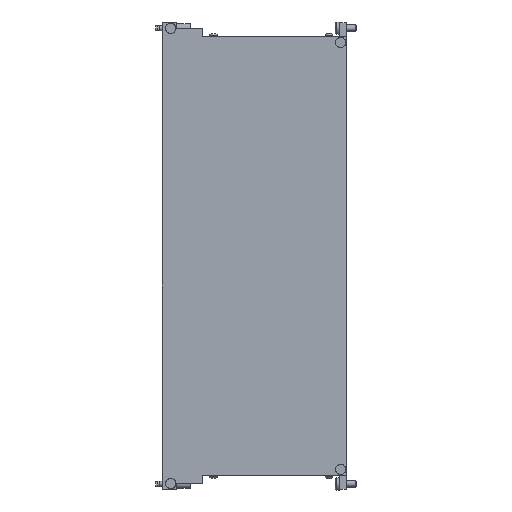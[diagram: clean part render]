
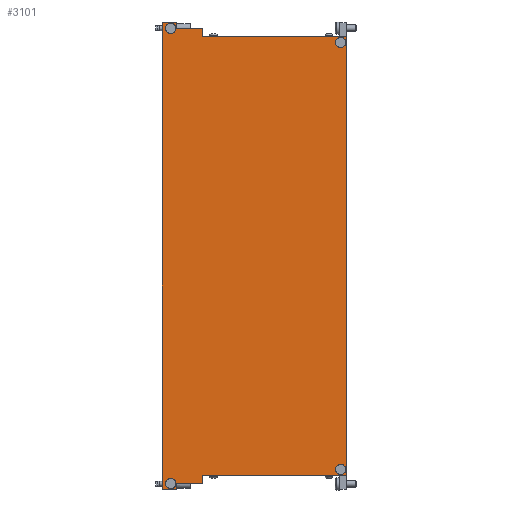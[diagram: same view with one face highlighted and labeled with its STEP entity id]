
A CAD part, top view. The second image highlights one B-rep face of the part: STEP entity #3101.
In plain terms, the highlighted planar face has unit normal (0, 0, 1).
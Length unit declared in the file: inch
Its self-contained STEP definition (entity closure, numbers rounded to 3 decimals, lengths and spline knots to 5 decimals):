
#2954=CARTESIAN_POINT('',(-2.10901,-4.59475,0.05));
#2955=DIRECTION('',(0.0,0.0,1.0));
#2956=DIRECTION('',(0.0,-1.0,0.0));
#2957=AXIS2_PLACEMENT_3D('',#2954,#2955,#2956);
#2958=PLANE('',#2957);
#2959=CARTESIAN_POINT('',(-4.0685,0.56375,0.05));
#2960=VERTEX_POINT('',#2959);
#2961=CARTESIAN_POINT('',(-3.756,0.56375,0.05));
#2962=VERTEX_POINT('',#2961);
#2963=CARTESIAN_POINT('',(-4.0685,0.56375,0.05));
#2964=DIRECTION('',(1.0,0.0,0.0));
#2965=VECTOR('',#2964,0.3125);
#2966=LINE('',#2963,#2965);
#2967=EDGE_CURVE('',#2960,#2962,#2966,.T.);
#2968=ORIENTED_EDGE('',*,*,#2967,.F.);
#2969=CARTESIAN_POINT('',(-4.0685,-9.75325,0.05));
#2970=VERTEX_POINT('',#2969);
#2971=CARTESIAN_POINT('',(-4.0685,-9.75325,0.05));
#2972=DIRECTION('',(0.0,1.0,0.0));
#2973=VECTOR('',#2972,10.317);
#2974=LINE('',#2971,#2973);
#2975=EDGE_CURVE('',#2970,#2960,#2974,.T.);
#2976=ORIENTED_EDGE('',*,*,#2975,.F.);
#2977=CARTESIAN_POINT('',(-3.756,-9.75325,0.05));
#2978=VERTEX_POINT('',#2977);
#2979=CARTESIAN_POINT('',(-3.756,-9.75325,0.05));
#2980=DIRECTION('',(-1.0,0.0,0.0));
#2981=VECTOR('',#2980,0.3125);
#2982=LINE('',#2979,#2981);
#2983=EDGE_CURVE('',#2978,#2970,#2982,.T.);
#2984=ORIENTED_EDGE('',*,*,#2983,.F.);
#2985=CARTESIAN_POINT('',(-3.756,-9.626,0.05));
#2986=VERTEX_POINT('',#2985);
#2987=CARTESIAN_POINT('',(-3.756,-9.626,0.05));
#2988=DIRECTION('',(0.0,-1.0,0.0));
#2989=VECTOR('',#2988,0.12725);
#2990=LINE('',#2987,#2989);
#2991=EDGE_CURVE('',#2986,#2978,#2990,.T.);
#2992=ORIENTED_EDGE('',*,*,#2991,.F.);
#2993=CARTESIAN_POINT('',(-3.1685,-9.626,0.05));
#2994=VERTEX_POINT('',#2993);
#2995=CARTESIAN_POINT('',(-3.1685,-9.626,0.05));
#2996=DIRECTION('',(-1.0,0.0,0.0));
#2997=VECTOR('',#2996,0.5875);
#2998=LINE('',#2995,#2997);
#2999=EDGE_CURVE('',#2994,#2986,#2998,.T.);
#3000=ORIENTED_EDGE('',*,*,#2999,.F.);
#3001=CARTESIAN_POINT('',(-3.1685,-9.4385,0.05));
#3002=VERTEX_POINT('',#3001);
#3003=CARTESIAN_POINT('',(-3.1685,-9.4385,0.05));
#3004=DIRECTION('',(0.0,-1.0,0.0));
#3005=VECTOR('',#3004,0.1875);
#3006=LINE('',#3003,#3005);
#3007=EDGE_CURVE('',#3002,#2994,#3006,.T.);
#3008=ORIENTED_EDGE('',*,*,#3007,.F.);
#3009=CARTESIAN_POINT('',(-0.0005,-9.4385,0.05));
#3010=VERTEX_POINT('',#3009);
#3011=CARTESIAN_POINT('',(-0.0005,-9.4385,0.05));
#3012=DIRECTION('',(-1.0,0.0,0.0));
#3013=VECTOR('',#3012,3.168);
#3014=LINE('',#3011,#3013);
#3015=EDGE_CURVE('',#3010,#3002,#3014,.T.);
#3016=ORIENTED_EDGE('',*,*,#3015,.F.);
#3017=CARTESIAN_POINT('',(-0.0005,0.249,0.05));
#3018=VERTEX_POINT('',#3017);
#3019=CARTESIAN_POINT('',(-0.0005,0.249,0.05));
#3020=DIRECTION('',(0.0,-1.0,0.0));
#3021=VECTOR('',#3020,9.6875);
#3022=LINE('',#3019,#3021);
#3023=EDGE_CURVE('',#3018,#3010,#3022,.T.);
#3024=ORIENTED_EDGE('',*,*,#3023,.F.);
#3025=CARTESIAN_POINT('',(-3.1685,0.249,0.05));
#3026=VERTEX_POINT('',#3025);
#3027=CARTESIAN_POINT('',(-3.1685,0.249,0.05));
#3028=DIRECTION('',(1.0,0.0,0.0));
#3029=VECTOR('',#3028,3.168);
#3030=LINE('',#3027,#3029);
#3031=EDGE_CURVE('',#3026,#3018,#3030,.T.);
#3032=ORIENTED_EDGE('',*,*,#3031,.F.);
#3033=CARTESIAN_POINT('',(-3.1685,0.4365,0.05));
#3034=VERTEX_POINT('',#3033);
#3035=CARTESIAN_POINT('',(-3.1685,0.4365,0.05));
#3036=DIRECTION('',(0.0,-1.0,0.0));
#3037=VECTOR('',#3036,0.1875);
#3038=LINE('',#3035,#3037);
#3039=EDGE_CURVE('',#3034,#3026,#3038,.T.);
#3040=ORIENTED_EDGE('',*,*,#3039,.F.);
#3041=CARTESIAN_POINT('',(-3.756,0.4365,0.05));
#3042=VERTEX_POINT('',#3041);
#3043=CARTESIAN_POINT('',(-3.756,0.4365,0.05));
#3044=DIRECTION('',(1.0,0.0,0.0));
#3045=VECTOR('',#3044,0.5875);
#3046=LINE('',#3043,#3045);
#3047=EDGE_CURVE('',#3042,#3034,#3046,.T.);
#3048=ORIENTED_EDGE('',*,*,#3047,.F.);
#3049=CARTESIAN_POINT('',(-3.756,0.56375,0.05));
#3050=DIRECTION('',(0.0,-1.0,0.0));
#3051=VECTOR('',#3050,0.12725);
#3052=LINE('',#3049,#3051);
#3053=EDGE_CURVE('',#2962,#3042,#3052,.T.);
#3054=ORIENTED_EDGE('',*,*,#3053,.F.);
#3055=EDGE_LOOP('',(#2968,#2976,#2984,#2992,#3000,#3008,#3016,#3024,#3032,#3040,#3048,#3054));
#3056=FACE_OUTER_BOUND('',#3055,.T.);
#3057=CARTESIAN_POINT('',(-0.1255,-9.4285,0.05));
#3058=VERTEX_POINT('',#3057);
#3059=CARTESIAN_POINT('',(-0.1255,-9.3135,0.05));
#3060=DIRECTION('',(0.0,0.0,-1.0));
#3061=DIRECTION('',(0.0,-1.0,0.0));
#3062=AXIS2_PLACEMENT_3D('',#3059,#3060,#3061);
#3063=CIRCLE('',#3062,0.115);
#3064=EDGE_CURVE('',#3058,#3058,#3063,.T.);
#3065=ORIENTED_EDGE('',*,*,#3064,.T.);
#3066=EDGE_LOOP('',(#3065));
#3067=FACE_BOUND('',#3066,.T.);
#3068=CARTESIAN_POINT('',(-3.881,0.322,0.05));
#3069=VERTEX_POINT('',#3068);
#3070=CARTESIAN_POINT('',(-3.881,0.437,0.05));
#3071=DIRECTION('',(0.0,0.0,-1.0));
#3072=DIRECTION('',(0.0,-1.0,0.0));
#3073=AXIS2_PLACEMENT_3D('',#3070,#3071,#3072);
#3074=CIRCLE('',#3073,0.115);
#3075=EDGE_CURVE('',#3069,#3069,#3074,.T.);
#3076=ORIENTED_EDGE('',*,*,#3075,.T.);
#3077=EDGE_LOOP('',(#3076));
#3078=FACE_BOUND('',#3077,.T.);
#3079=CARTESIAN_POINT('',(-0.1255,0.009,0.05));
#3080=VERTEX_POINT('',#3079);
#3081=CARTESIAN_POINT('',(-0.1255,0.124,0.05));
#3082=DIRECTION('',(0.0,0.0,-1.0));
#3083=DIRECTION('',(0.0,-1.0,0.0));
#3084=AXIS2_PLACEMENT_3D('',#3081,#3082,#3083);
#3085=CIRCLE('',#3084,0.115);
#3086=EDGE_CURVE('',#3080,#3080,#3085,.T.);
#3087=ORIENTED_EDGE('',*,*,#3086,.T.);
#3088=EDGE_LOOP('',(#3087));
#3089=FACE_BOUND('',#3088,.T.);
#3090=CARTESIAN_POINT('',(-3.881,-9.7415,0.05));
#3091=VERTEX_POINT('',#3090);
#3092=CARTESIAN_POINT('',(-3.881,-9.6265,0.05));
#3093=DIRECTION('',(0.0,0.0,-1.0));
#3094=DIRECTION('',(0.0,-1.0,0.0));
#3095=AXIS2_PLACEMENT_3D('',#3092,#3093,#3094);
#3096=CIRCLE('',#3095,0.115);
#3097=EDGE_CURVE('',#3091,#3091,#3096,.T.);
#3098=ORIENTED_EDGE('',*,*,#3097,.T.);
#3099=EDGE_LOOP('',(#3098));
#3100=FACE_BOUND('',#3099,.T.);
#3101=ADVANCED_FACE('',(#3056,#3067,#3078,#3089,#3100),#2958,.T.);
